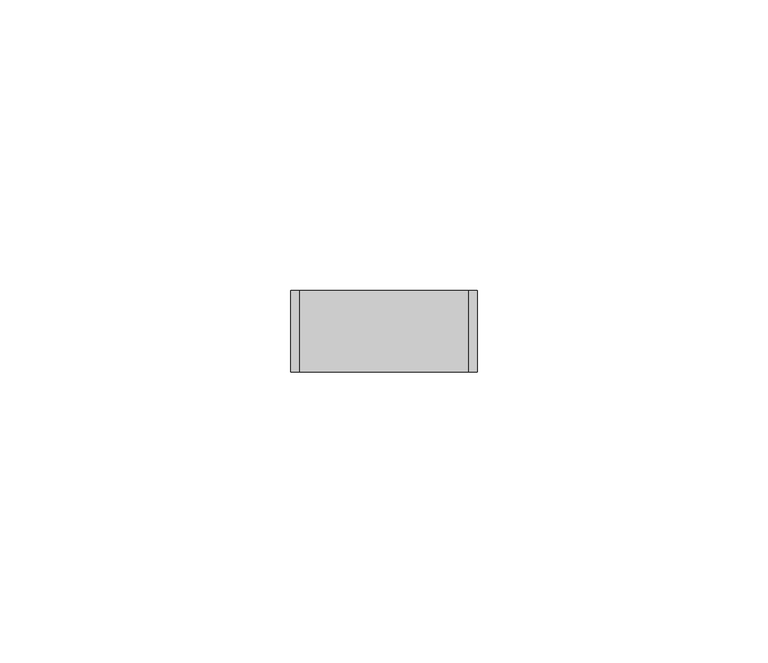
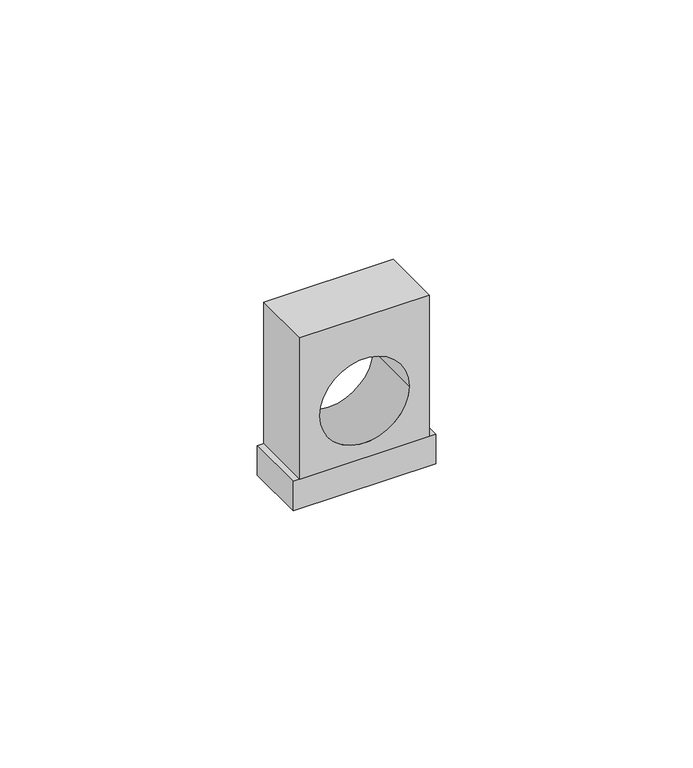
"""IFC4 building model written with IfcOpenShell, lengths in millimetres: cable carrier fitting geometry, КНС_ДержательРаздвижной_DKC : д.10 - 20мм."""

from ifc_helpers import new_model, si_unit, point, frame, frame_2d, origin, origin_with_axes, place, context, project, spatial, polyline, circle_curve, trimmed, segment, composite_curve, outline, extrude, source, transform, mapped, element, save


def cable_carrier_fitting_96dc2688(model_context):
    return source(origin(), model_context, "Body", "SweptSolid", [
        extrude(outline(polyline([(40.5, 14.5), (40.5, -14.5), (7.0, -14.5), (7.0, 14.5), (40.5, 14.5)]), holes=[composite_curve([segment(trimmed(circle_curve(frame_2d((20.5, 0.0)), 10.0), [point((20.5, -10.0))], [point((20.5, 10.0))], True, "CARTESIAN"), True, "CONTINUOUS"), segment(trimmed(circle_curve(frame_2d((20.5, 0.0)), 10.0), [point((20.5, 10.0))], [point((20.5, -10.0))], True, "CARTESIAN"), True, "CONTINUOUS")], self_intersect=False)]), frame((0.0, -7.0, 0.0), z_axis=(0.0, 1.0, 0.0), x_axis=(0.0, 0.0, 1.0)), (0.0, 0.0, 1.0), 14.0),
        extrude(outline(polyline([(16.0, -7.0), (-16.0, -7.0), (-16.0, 7.0), (16.0, 7.0), (16.0, -7.0)])), origin_with_axes(), (0.0, 0.0, 1.0), 7.0),
    ])


if __name__ == "__main__":
    model = new_model("IFC4")
    model_context = context("Model", 3, world=origin())
    ifc_project = project(units=[si_unit("LENGTHUNIT", "METRE", prefix="MILLI")], contexts=[model_context])
    site = spatial("IfcSite", under=ifc_project)
    building = spatial("IfcBuilding", under=site)
    placement = place(None, origin())
    cable_carrier_fitting_shape = cable_carrier_fitting_96dc2688(model_context)
    element("IfcCableCarrierFitting", 1, ObjectType="КНС_ДержательРаздвижной_DKC : д.10 - 20мм", at=placement, inside=building, context=model_context, shape_type="MappedRepresentation", body=[
        mapped(cable_carrier_fitting_shape, transform((0.0, 0.0, 0.0), x_axis=(1.0, 0.0, 0.0), y_axis=(0.0, 1.0, 0.0), z_axis=(0.0, 0.0, 1.0))),
    ])
    save(model, "model.ifc")
